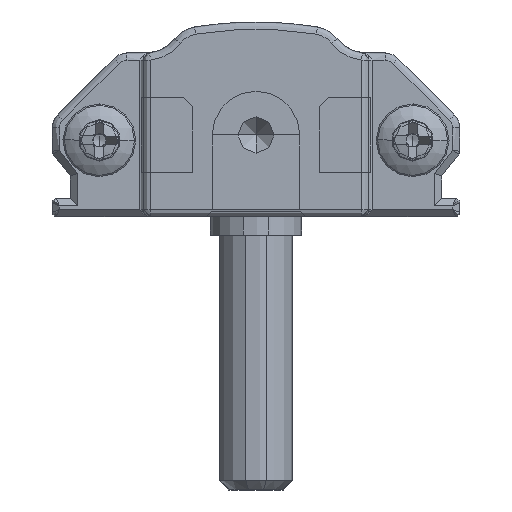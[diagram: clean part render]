
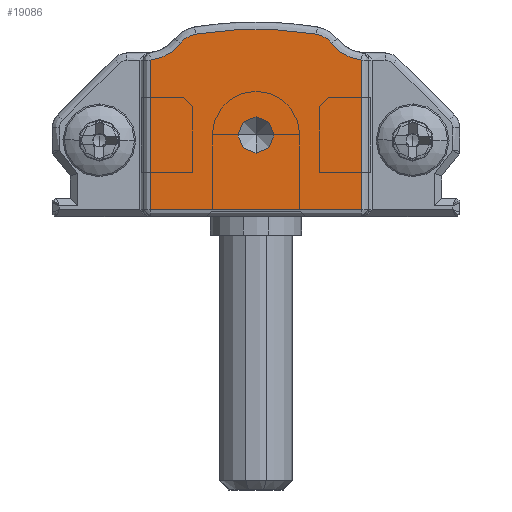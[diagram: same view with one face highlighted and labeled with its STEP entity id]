
A CAD part, front view. The second image highlights one B-rep face of the part: STEP entity #19086.
In plain terms, the highlighted planar face has unit normal (0, -1, 0).
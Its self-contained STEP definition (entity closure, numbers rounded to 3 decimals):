
#222 = CIRCLE ( 'NONE', #3940, 1. ) ;
#616 = LINE ( 'NONE', #5978, #6405 ) ;
#1145 = DIRECTION ( 'NONE',  ( 0., -1., 0. ) ) ;
#1280 = DIRECTION ( 'NONE',  ( 0., 0., -1. ) ) ;
#1497 = DIRECTION ( 'NONE',  ( 0., 0., 1. ) ) ;
#1811 = CARTESIAN_POINT ( 'NONE',  ( 15.332, -15., 9.541 ) ) ;
#1846 = ORIENTED_EDGE ( 'NONE', *, *, #12408, .F. ) ;
#2285 = CARTESIAN_POINT ( 'NONE',  ( 11.2, -15., 4.5 ) ) ;
#2810 = VERTEX_POINT ( 'NONE', #1811 ) ;
#2930 = ORIENTED_EDGE ( 'NONE', *, *, #6503, .T. ) ;
#3440 = CARTESIAN_POINT ( 'NONE',  ( 7.068, -15., 9.541 ) ) ;
#3664 = VERTEX_POINT ( 'NONE', #32931 ) ;
#3807 = VECTOR ( 'NONE', #1497, 1000. ) ;
#3842 = CARTESIAN_POINT ( 'NONE',  ( 11.2, -15., -10.376 ) ) ;
#3940 = AXIS2_PLACEMENT_3D ( 'NONE', #33191, #4956, #10164 ) ;
#4028 = CARTESIAN_POINT ( 'NONE',  ( 17., -15., 8.612 ) ) ;
#4300 = PLANE ( 'NONE',  #18751 ) ;
#4956 = DIRECTION ( 'NONE',  ( 0., -1., 0. ) ) ;
#5574 = DIRECTION ( 'NONE',  ( 0., 0., -1. ) ) ;
#5978 = CARTESIAN_POINT ( 'NONE',  ( 5.4, -15., 0.4 ) ) ;
#6362 = ORIENTED_EDGE ( 'NONE', *, *, #29102, .T. ) ;
#6405 = VECTOR ( 'NONE', #16223, 1000. ) ;
#6503 = EDGE_CURVE ( 'NONE', #29657, #26566, #616, .T. ) ;
#6620 = ORIENTED_EDGE ( 'NONE', *, *, #26612, .F. ) ;
#7039 = CIRCLE ( 'NONE', #16682, 2.4 ) ;
#7600 = CARTESIAN_POINT ( 'NONE',  ( 11.2, -15., 5.5 ) ) ;
#8943 = DIRECTION ( 'NONE',  ( 0., -1., 0. ) ) ;
#8958 = VERTEX_POINT ( 'NONE', #11238 ) ;
#9062 = CARTESIAN_POINT ( 'NONE',  ( 11.2, -15., 3.5 ) ) ;
#9200 = DIRECTION ( 'NONE',  ( 0., -1., 0. ) ) ;
#9323 = CIRCLE ( 'NONE', #10883, 1. ) ;
#10011 = EDGE_CURVE ( 'NONE', #12918, #3664, #33009, .T. ) ;
#10096 = EDGE_LOOP ( 'NONE', ( #1846, #6620 ) ) ;
#10164 = DIRECTION ( 'NONE',  ( 0., 0., -1. ) ) ;
#10391 = CARTESIAN_POINT ( 'NONE',  ( 17., -15., 0.4 ) ) ;
#10518 = EDGE_LOOP ( 'NONE', ( #24184, #27160, #19650, #17475, #24040, #6362, #2930, #26491 ) ) ;
#10883 = AXIS2_PLACEMENT_3D ( 'NONE', #2285, #12535, #20288 ) ;
#11238 = CARTESIAN_POINT ( 'NONE',  ( 17., -15., 8.612 ) ) ;
#11393 = DIRECTION ( 'NONE',  ( 0., 0., -1. ) ) ;
#11434 = CARTESIAN_POINT ( 'NONE',  ( 8.1, -15., 8.75 ) ) ;
#12408 = EDGE_CURVE ( 'NONE', #17514, #25057, #222, .T. ) ;
#12535 = DIRECTION ( 'NONE',  ( 0., -1., 0. ) ) ;
#12918 = VERTEX_POINT ( 'NONE', #32944 ) ;
#12931 = DIRECTION ( 'NONE',  ( 0., 1., 0. ) ) ;
#14058 = CARTESIAN_POINT ( 'NONE',  ( 22.15, -15., 3.606 ) ) ;
#14379 = VERTEX_POINT ( 'NONE', #29322 ) ;
#14451 = LINE ( 'NONE', #4028, #3807 ) ;
#16111 = CARTESIAN_POINT ( 'NONE',  ( 14.3, -15., 8.75 ) ) ;
#16223 = DIRECTION ( 'NONE',  ( 0., 0., -1. ) ) ;
#16682 = AXIS2_PLACEMENT_3D ( 'NONE', #26036, #12931, #23344 ) ;
#16735 = FACE_OUTER_BOUND ( 'NONE', #10518, .T. ) ;
#17173 = AXIS2_PLACEMENT_3D ( 'NONE', #11434, #8943, #5574 ) ;
#17475 = ORIENTED_EDGE ( 'NONE', *, *, #10011, .T. ) ;
#17514 = VERTEX_POINT ( 'NONE', #9062 ) ;
#18114 = DIRECTION ( 'NONE',  ( 1., 0., 0. ) ) ;
#18738 = DIRECTION ( 'NONE',  ( 0., 0., -1. ) ) ;
#18751 = AXIS2_PLACEMENT_3D ( 'NONE', #14058, #9200, #1280 ) ;
#19086 = ADVANCED_FACE ( 'NONE', ( #16735, #19950 ), #4300, .T. ) ;
#19091 = DIRECTION ( 'NONE',  ( 0., 1., 0. ) ) ;
#19650 = ORIENTED_EDGE ( 'NONE', *, *, #21000, .T. ) ;
#19950 = FACE_BOUND ( 'NONE', #10096, .T. ) ;
#20146 = AXIS2_PLACEMENT_3D ( 'NONE', #3842, #30395, #32285 ) ;
#20288 = DIRECTION ( 'NONE',  ( 0., 0., -1. ) ) ;
#20765 = AXIS2_PLACEMENT_3D ( 'NONE', #24438, #19091, #18738 ) ;
#20784 = CARTESIAN_POINT ( 'NONE',  ( 5.4, -15., 0.4 ) ) ;
#20889 = EDGE_CURVE ( 'NONE', #8958, #2810, #7039, .T. ) ;
#21000 = EDGE_CURVE ( 'NONE', #2810, #12918, #31749, .T. ) ;
#21573 = CIRCLE ( 'NONE', #17173, 1.3 ) ;
#23344 = DIRECTION ( 'NONE',  ( 0., 0., -1. ) ) ;
#23745 = VECTOR ( 'NONE', #18114, 1000. ) ;
#23834 = VERTEX_POINT ( 'NONE', #3440 ) ;
#24040 = ORIENTED_EDGE ( 'NONE', *, *, #25190, .T. ) ;
#24184 = ORIENTED_EDGE ( 'NONE', *, *, #30529, .T. ) ;
#24438 = CARTESIAN_POINT ( 'NONE',  ( 5.162, -15., 11. ) ) ;
#25057 = VERTEX_POINT ( 'NONE', #7600 ) ;
#25190 = EDGE_CURVE ( 'NONE', #3664, #23834, #21573, .T. ) ;
#25812 = AXIS2_PLACEMENT_3D ( 'NONE', #16111, #1145, #11393 ) ;
#26036 = CARTESIAN_POINT ( 'NONE',  ( 17.238, -15., 11. ) ) ;
#26123 = CIRCLE ( 'NONE', #20765, 2.4 ) ;
#26368 = EDGE_CURVE ( 'NONE', #26566, #14379, #31069, .T. ) ;
#26491 = ORIENTED_EDGE ( 'NONE', *, *, #26368, .T. ) ;
#26566 = VERTEX_POINT ( 'NONE', #20784 ) ;
#26612 = EDGE_CURVE ( 'NONE', #25057, #17514, #9323, .T. ) ;
#27160 = ORIENTED_EDGE ( 'NONE', *, *, #20889, .T. ) ;
#29102 = EDGE_CURVE ( 'NONE', #23834, #29657, #26123, .T. ) ;
#29322 = CARTESIAN_POINT ( 'NONE',  ( 17., -15., 0.4 ) ) ;
#29657 = VERTEX_POINT ( 'NONE', #32771 ) ;
#30395 = DIRECTION ( 'NONE',  ( 0., -1., 0. ) ) ;
#30529 = EDGE_CURVE ( 'NONE', #14379, #8958, #14451, .T. ) ;
#31069 = LINE ( 'NONE', #10391, #23745 ) ;
#31749 = CIRCLE ( 'NONE', #25812, 1.3 ) ;
#32285 = DIRECTION ( 'NONE',  ( 0., 0., -1. ) ) ;
#32771 = CARTESIAN_POINT ( 'NONE',  ( 5.4, -15., 8.612 ) ) ;
#32931 = CARTESIAN_POINT ( 'NONE',  ( 7.892, -15., 10.034 ) ) ;
#32944 = CARTESIAN_POINT ( 'NONE',  ( 14.508, -15., 10.034 ) ) ;
#33009 = CIRCLE ( 'NONE', #20146, 20.676 ) ;
#33191 = CARTESIAN_POINT ( 'NONE',  ( 11.2, -15., 4.5 ) ) ;
